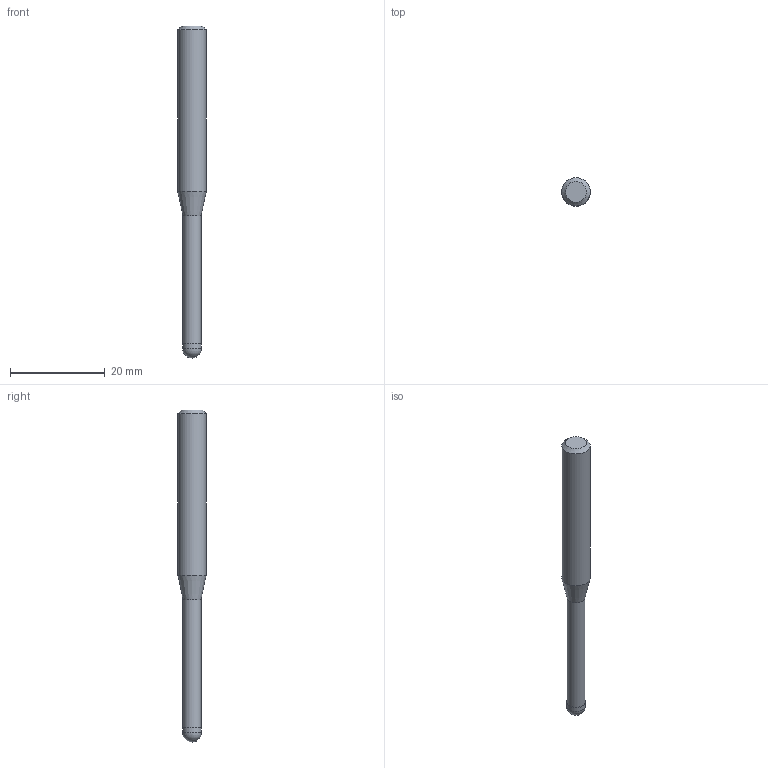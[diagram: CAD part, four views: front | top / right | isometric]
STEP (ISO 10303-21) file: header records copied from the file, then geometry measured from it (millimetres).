
FILE_DESCRIPTION((''),'2;1');
FILE_NAME('C:\Users\nsx150\AppData\Local\Temp\Mastercam 2021\3SYKECWX22\TEMP.step','2021-04-22T10:05:30',(''),(''),'STEP Write','Mastercam 2021 ... CNC Software, Inc.','');
FILE_SCHEMA(('AUTOMOTIVE_DESIGN'));
Length unit declared in the file: millimetre
Products named in the file (1): None
Bounding box: 6 x 6 x 70 mm (x, y, z)
Volume: 1413.9 mm3; surface area: 1140.4 mm2
Topology: 2 solids, 2 shells, 9 faces, 14 edges, 8 vertices
Faces by surface type: plane 3, cylinder 3, cone 2, sphere 1
Full cylindrical faces by diameter (mm): 3.8 x1, 4 x1, 6 x1
Entity records: 211 total; most frequent: DIRECTION 36, CARTESIAN_POINT 25, AXIS2_PLACEMENT_3D 18, ORIENTED_EDGE 14, EDGE_LOOP 14, STYLED_ITEM 12, ADVANCED_FACE 9, FACE_BOUND 8
